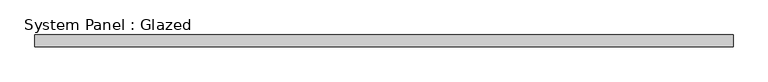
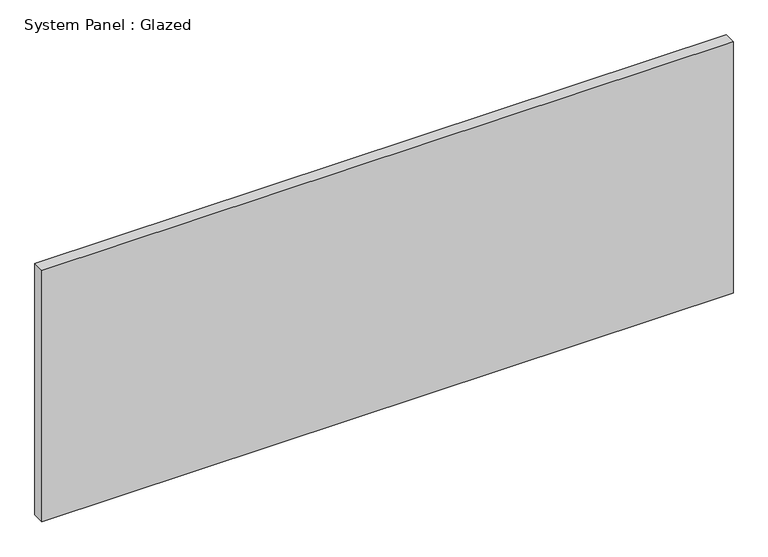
"""IFC4 building model written with IfcOpenShell, lengths in millimetres: plate geometry, System Panel : Glazed."""

import ifcopenshell
import ifcopenshell.guid

model = None  # the IFC model being written
_history = None  # IfcOwnerHistory: only IFC2X3 demands one
_inside = {}  # id of a spatial element -> (the spatial element, [elements in it])
_under = {}  # id of a project, library or spatial element -> (it, [spatial elements below it])
_declared = {}  # id of a project -> (the project, [libraries it declares])
_typed = {}  # id of a type object -> (the type object, [elements of that type])
_made_of = {}  # id of a material, layer set ... -> (it, [elements and type objects made of it])


def new_model(schema):
    """Start an empty IFC model of exactly this schema.

    Asked for "IFC4X3", IfcOpenShell would pick the latest addendum, in which some entities
    have other attributes; the version numbers below select the first issue.
    IFC2X3 requires an IfcOwnerHistory on every rooted entity: one is made here for all.
    """
    global model, _history
    if schema == "IFC4X3":
        model = ifcopenshell.file(schema_version=(4, 3, 0, 0))
    else:
        model = ifcopenshell.file(schema=schema)
    _inside.clear()
    _under.clear()
    _declared.clear()
    _typed.clear()
    _made_of.clear()
    _history = None
    if model.schema == "IFC2X3":
        org = make("IfcOrganization", Name="unknown")
        user = make(
            "IfcPersonAndOrganization",
            ThePerson=make("IfcPerson", FamilyName="unknown"),
            TheOrganization=org,
        )
        app = make(
            "IfcApplication",
            ApplicationDeveloper=org,
            Version="unknown",
            ApplicationFullName="unknown",
            ApplicationIdentifier="unknown",
        )
        _history = make(
            "IfcOwnerHistory",
            OwningUser=user,
            OwningApplication=app,
            ChangeAction="ADDED",
            CreationDate=0,
        )
    return model


def make(cls, **values):
    """One entity of the class cls with the attributes given. An attribute that is None is left unset."""
    return model.create_entity(
        cls, **{name: value for name, value in values.items() if value is not None}
    )


def rooted(cls, **values):
    """An entity with a GlobalId (a new one), such as an element, a storey or a relation."""
    return make(cls, GlobalId=ifcopenshell.guid.new(), OwnerHistory=_history, **values)


def si_unit(unit_type, name, prefix=None):
    """IfcSIUnit, for example si_unit("LENGTHUNIT", "METRE", prefix="MILLI")."""
    return make("IfcSIUnit", UnitType=unit_type, Prefix=prefix, Name=name)


def assignment(units):
    """IfcUnitAssignment: the units of a project."""
    return None if units is None else make("IfcUnitAssignment", Units=units)


def point(xyz):
    """IfcCartesianPoint."""
    return None if xyz is None else make("IfcCartesianPoint", Coordinates=xyz)


def direction(xyz):
    """IfcDirection."""
    return None if xyz is None else make("IfcDirection", DirectionRatios=xyz)


def frame(location, z_axis=None, x_axis=None):
    """IfcAxis2Placement3D, a coordinate frame: its origin and axes. An axis left out is left unset."""
    return make(
        "IfcAxis2Placement3D",
        Location=point(location),
        Axis=direction(z_axis),
        RefDirection=direction(x_axis),
    )


def origin():
    """The frame at (0, 0, 0) with its axes left unset."""
    return frame((0.0, 0.0, 0.0))


def origin_with_axes():
    """The frame at (0, 0, 0) with the z axis (0, 0, 1) and the x axis (1, 0, 0) written out."""
    return frame((0.0, 0.0, 0.0), z_axis=(0.0, 0.0, 1.0), x_axis=(1.0, 0.0, 0.0))


def place(relative_to, where):
    """IfcLocalPlacement: puts the frame where relative to a parent placement (None: the world)."""
    return make(
        "IfcLocalPlacement", PlacementRelTo=relative_to, RelativePlacement=where
    )


def context(
    kind, dimensions, precision=None, world=None, true_north=None, identifier=None
):
    """IfcGeometricRepresentationContext, for example the 3D "Model" context."""
    return make(
        "IfcGeometricRepresentationContext",
        ContextIdentifier=identifier,
        ContextType=kind,
        CoordinateSpaceDimension=dimensions,
        Precision=precision,
        WorldCoordinateSystem=world,
        TrueNorth=true_north,
    )


def project(units=None, contexts=None):
    """IfcProject with its units and contexts."""
    return rooted(
        "IfcProject",
        Name="project",
        RepresentationContexts=contexts,
        UnitsInContext=assignment(units),
    )


def spatial(cls, under=None, at=None, **own):
    """A site, building, storey or space (cls), placed at a placement, below another one or the project."""
    s = rooted(cls, ObjectPlacement=at, **own)
    if under is not None:
        _under.setdefault(under.id(), (under, []))[1].append(s)
    return s


def polyline(points):
    """IfcPolyline through the points."""
    return make("IfcPolyline", Points=[point(p) for p in points])


def outline(outer, holes=None, kind="AREA"):
    """IfcArbitraryClosedProfileDef: a profile drawn as a closed curve; with holes, ...WithVoids."""
    if holes is None:
        return make("IfcArbitraryClosedProfileDef", ProfileType=kind, OuterCurve=outer)
    return make(
        "IfcArbitraryProfileDefWithVoids",
        ProfileType=kind,
        OuterCurve=outer,
        InnerCurves=holes,
    )


def extrude(swept, where, along, depth):
    """IfcExtrudedAreaSolid: the profile swept, set in the frame where, extruded along a direction by depth."""
    return make(
        "IfcExtrudedAreaSolid",
        SweptArea=swept,
        Position=where,
        ExtrudedDirection=direction(along),
        Depth=depth,
    )


def shape(context_of_items, identifier, shape_type, items):
    """IfcShapeRepresentation: the items that make up one representation, for example the "Body"."""
    return make(
        "IfcShapeRepresentation",
        ContextOfItems=context_of_items,
        RepresentationIdentifier=identifier,
        RepresentationType=shape_type,
        Items=items,
    )


def source(mapping_origin, context_of_items, identifier, shape_type, items):
    """IfcRepresentationMap: a shape defined once, which mapped items show again and again."""
    return make(
        "IfcRepresentationMap",
        MappingOrigin=mapping_origin,
        MappedRepresentation=shape(context_of_items, identifier, shape_type, items),
    )


def transform(
    local_origin,
    x_axis=None,
    y_axis=None,
    z_axis=None,
    scale=None,
    scale2=None,
    scale3=None,
    uniform=True,
):
    """IfcCartesianTransformationOperator3D, or its non-uniform kind. x_axis, y_axis, z_axis: its Axis1, 2, 3."""
    if uniform:
        return make(
            "IfcCartesianTransformationOperator3D",
            Axis1=direction(x_axis),
            Axis2=direction(y_axis),
            LocalOrigin=point(local_origin),
            Scale=scale,
            Axis3=direction(z_axis),
        )
    return make(
        "IfcCartesianTransformationOperator3DnonUniform",
        Axis1=direction(x_axis),
        Axis2=direction(y_axis),
        LocalOrigin=point(local_origin),
        Scale=scale,
        Axis3=direction(z_axis),
        Scale2=scale2,
        Scale3=scale3,
    )


def mapped(mapping_source, mapping_target):
    """IfcMappedItem: shows the shape of a source again, moved by a transform."""
    return make(
        "IfcMappedItem", MappingSource=mapping_source, MappingTarget=mapping_target
    )


def made_of(thing, what):
    """Note that an element or type object is made of a material, layer set ...; save() writes the relation."""
    if what is not None:
        _made_of.setdefault(what.id(), (what, []))[1].append(thing)
    return thing


def element(
    cls,
    number,
    at=None,
    inside=None,
    cuts=None,
    type_object=None,
    material=None,
    context=None,
    identifier="Body",
    shape_type=None,
    held_by="IfcProductDefinitionShape",
    body=None,
    shapes=None,
    **own,
):
    """One element of the class cls, such as IfcWall. Its Tag is "e" and its number.

    at: its placement. inside: the storey or other place that contains it. cuts: it is an
    opening in that element (IfcRelVoidsElement). A single representation is given by context,
    identifier, shape_type and body (its items); several are given by shapes. held_by: the class
    of the entity that holds the representations. save() writes the other relations.
    """
    e = rooted(cls, Tag="e%d" % number, ObjectPlacement=at, **own)
    if body is not None:
        shapes = [shape(context, identifier, shape_type, body)]
    if shapes is not None:
        e.Representation = make(held_by, Representations=shapes)
    if inside is not None:
        _inside.setdefault(inside.id(), (inside, []))[1].append(e)
    if cuts is not None:
        rooted(
            "IfcRelVoidsElement", RelatingBuildingElement=cuts, RelatedOpeningElement=e
        )
    if type_object is not None:
        _typed.setdefault(type_object.id(), (type_object, []))[1].append(e)
    return made_of(e, material)


def aggregate(whole, parts):
    """IfcRelAggregates: a whole, such as a stair, and the parts it consists of."""
    return rooted("IfcRelAggregates", RelatingObject=whole, RelatedObjects=parts)


def save(model, path):
    """Write the relations noted so far, then the file.

    IfcRelAggregates (storeys below a building ...), IfcRelContainedInSpatialStructure (elements
    in a storey), IfcRelDefinesByType, IfcRelAssociatesMaterial and IfcRelDeclares: one each for
    every whole, place, type object, material and project.
    """
    for whole, parts in _under.values():
        aggregate(whole, parts)
    for where, things in _inside.values():
        rooted(
            "IfcRelContainedInSpatialStructure",
            RelatedElements=things,
            RelatingStructure=where,
        )
    for kind, things in _typed.values():
        rooted("IfcRelDefinesByType", RelatedObjects=things, RelatingType=kind)
    for what, things in _made_of.values():
        rooted("IfcRelAssociatesMaterial", RelatedObjects=things, RelatingMaterial=what)
    for by, libraries in _declared.values():
        rooted("IfcRelDeclares", RelatingContext=by, RelatedDefinitions=libraries)
    model.write(path)


def system_panel_glazed_4989902e(model_context):
    return source(origin(), model_context, "Body", "SweptSolid", [
        extrude(outline(polyline([(742.95, 19.05), (-742.95, 19.05), (-742.95, 44.45), (742.95, 44.45), (742.95, 19.05)])), origin_with_axes(), (0.0, 0.0, 1.0), 571.5),
    ])


if __name__ == "__main__":
    model = new_model("IFC4")
    model_context = context("Model", 3, world=origin())
    ifc_project = project(units=[si_unit("LENGTHUNIT", "METRE", prefix="MILLI")], contexts=[model_context])
    site = spatial("IfcSite", under=ifc_project)
    building = spatial("IfcBuilding", under=site)
    placement = place(None, origin())
    system_panel_glazed_shape = system_panel_glazed_4989902e(model_context)
    element("IfcPlate", 1, ObjectType="System Panel : Glazed", at=placement, inside=building, context=model_context, shape_type="MappedRepresentation", body=[
        mapped(system_panel_glazed_shape, transform((0.0, 0.0, 0.0), x_axis=(1.0, 0.0, 0.0), y_axis=(0.0, 1.0, 0.0), z_axis=(0.0, 0.0, 1.0))),
    ])
    save(model, "model.ifc")
